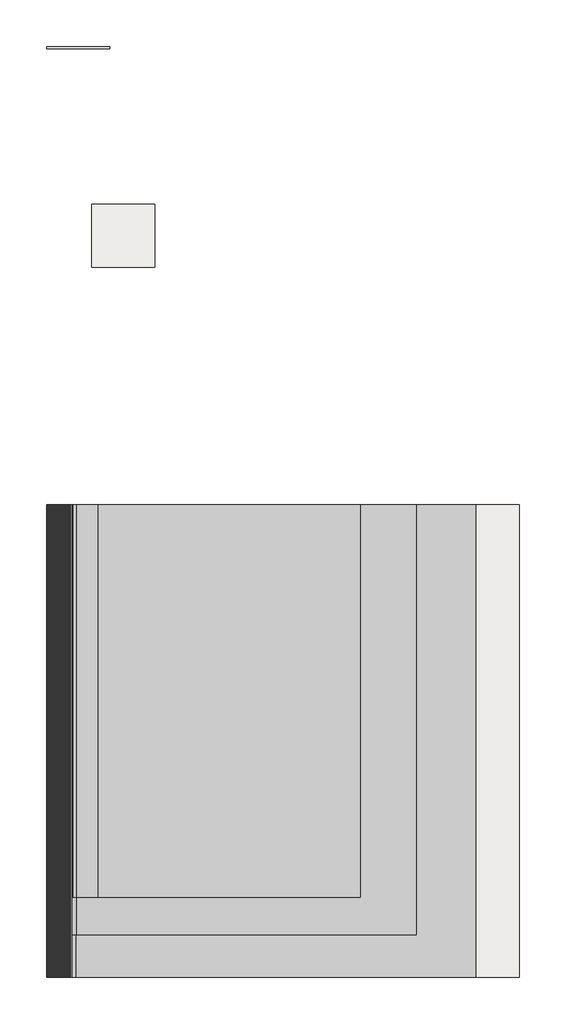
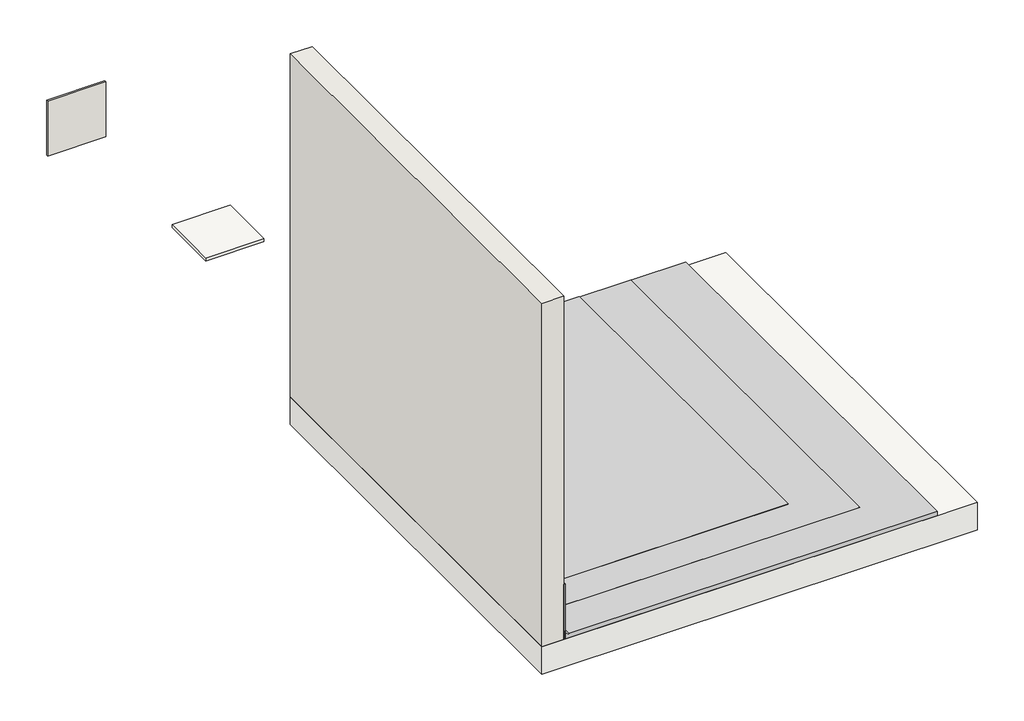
# One storey: 2 slabs, 2 walls, 1 proxy.
"""IFC4 building model written with IfcOpenShell, lengths in millimetres."""

import ifcopenshell
import ifcopenshell.guid

model = None  # the IFC model being written
_history = None  # IfcOwnerHistory: only IFC2X3 demands one
_inside = {}  # id of a spatial element -> (the spatial element, [elements in it])
_under = {}  # id of a project, library or spatial element -> (it, [spatial elements below it])
_declared = {}  # id of a project -> (the project, [libraries it declares])
_typed = {}  # id of a type object -> (the type object, [elements of that type])
_made_of = {}  # id of a material, layer set ... -> (it, [elements and type objects made of it])


def new_model(schema):
    """Start an empty IFC model of exactly this schema.

    Asked for "IFC4X3", IfcOpenShell would pick the latest addendum, in which some entities
    have other attributes; the version numbers below select the first issue.
    IFC2X3 requires an IfcOwnerHistory on every rooted entity: one is made here for all.
    """
    global model, _history
    if schema == "IFC4X3":
        model = ifcopenshell.file(schema_version=(4, 3, 0, 0))
    else:
        model = ifcopenshell.file(schema=schema)
    _inside.clear()
    _under.clear()
    _declared.clear()
    _typed.clear()
    _made_of.clear()
    _history = None
    if model.schema == "IFC2X3":
        org = make("IfcOrganization", Name="unknown")
        user = make(
            "IfcPersonAndOrganization",
            ThePerson=make("IfcPerson", FamilyName="unknown"),
            TheOrganization=org,
        )
        app = make(
            "IfcApplication",
            ApplicationDeveloper=org,
            Version="unknown",
            ApplicationFullName="unknown",
            ApplicationIdentifier="unknown",
        )
        _history = make(
            "IfcOwnerHistory",
            OwningUser=user,
            OwningApplication=app,
            ChangeAction="ADDED",
            CreationDate=0,
        )
    return model


def make(cls, **values):
    """One entity of the class cls with the attributes given. An attribute that is None is left unset."""
    return model.create_entity(
        cls, **{name: value for name, value in values.items() if value is not None}
    )


def rooted(cls, **values):
    """An entity with a GlobalId (a new one), such as an element, a storey or a relation."""
    return make(cls, GlobalId=ifcopenshell.guid.new(), OwnerHistory=_history, **values)


def si_unit(unit_type, name, prefix=None):
    """IfcSIUnit, for example si_unit("LENGTHUNIT", "METRE", prefix="MILLI")."""
    return make("IfcSIUnit", UnitType=unit_type, Prefix=prefix, Name=name)


def assignment(units):
    """IfcUnitAssignment: the units of a project."""
    return None if units is None else make("IfcUnitAssignment", Units=units)


def point(xyz):
    """IfcCartesianPoint."""
    return None if xyz is None else make("IfcCartesianPoint", Coordinates=xyz)


def direction(xyz):
    """IfcDirection."""
    return None if xyz is None else make("IfcDirection", DirectionRatios=xyz)


def frame(location, z_axis=None, x_axis=None):
    """IfcAxis2Placement3D, a coordinate frame: its origin and axes. An axis left out is left unset."""
    return make(
        "IfcAxis2Placement3D",
        Location=point(location),
        Axis=direction(z_axis),
        RefDirection=direction(x_axis),
    )


def frame_2d(location, x_axis=None):
    """IfcAxis2Placement2D, a coordinate frame in the plane: its origin and x axis."""
    return make(
        "IfcAxis2Placement2D", Location=point(location), RefDirection=direction(x_axis)
    )


def origin():
    """The frame at (0, 0, 0) with its axes left unset."""
    return frame((0.0, 0.0, 0.0))


def place(relative_to, where):
    """IfcLocalPlacement: puts the frame where relative to a parent placement (None: the world)."""
    return make(
        "IfcLocalPlacement", PlacementRelTo=relative_to, RelativePlacement=where
    )


def context(
    kind, dimensions, precision=None, world=None, true_north=None, identifier=None
):
    """IfcGeometricRepresentationContext, for example the 3D "Model" context."""
    return make(
        "IfcGeometricRepresentationContext",
        ContextIdentifier=identifier,
        ContextType=kind,
        CoordinateSpaceDimension=dimensions,
        Precision=precision,
        WorldCoordinateSystem=world,
        TrueNorth=true_north,
    )


def project(units=None, contexts=None):
    """IfcProject with its units and contexts."""
    return rooted(
        "IfcProject",
        Name="project",
        RepresentationContexts=contexts,
        UnitsInContext=assignment(units),
    )


def spatial(cls, under=None, at=None, **own):
    """A site, building, storey or space (cls), placed at a placement, below another one or the project."""
    s = rooted(cls, ObjectPlacement=at, **own)
    if under is not None:
        _under.setdefault(under.id(), (under, []))[1].append(s)
    return s


def polyline(points):
    """IfcPolyline through the points."""
    return make("IfcPolyline", Points=[point(p) for p in points])


def circle_curve(where, radius):
    """IfcCircle in the frame where."""
    return make("IfcCircle", Position=where, Radius=radius)


def trimmed(basis, trim1, trim2, sense, master):
    """IfcTrimmedCurve: the piece of a basis curve between two trims."""
    return make(
        "IfcTrimmedCurve",
        BasisCurve=basis,
        Trim1=trim1,
        Trim2=trim2,
        SenseAgreement=sense,
        MasterRepresentation=master,
    )


def segment(curve, same_sense, transition):
    """IfcCompositeCurveSegment."""
    return make(
        "IfcCompositeCurveSegment",
        Transition=transition,
        SameSense=same_sense,
        ParentCurve=curve,
    )


def composite_curve(segments, self_intersect=None):
    """IfcCompositeCurve: segments joined end to end."""
    return make("IfcCompositeCurve", Segments=segments, SelfIntersect=self_intersect)


def outline(outer, holes=None, kind="AREA"):
    """IfcArbitraryClosedProfileDef: a profile drawn as a closed curve; with holes, ...WithVoids."""
    if holes is None:
        return make("IfcArbitraryClosedProfileDef", ProfileType=kind, OuterCurve=outer)
    return make(
        "IfcArbitraryProfileDefWithVoids",
        ProfileType=kind,
        OuterCurve=outer,
        InnerCurves=holes,
    )


def extrude(swept, where, along, depth):
    """IfcExtrudedAreaSolid: the profile swept, set in the frame where, extruded along a direction by depth."""
    return make(
        "IfcExtrudedAreaSolid",
        SweptArea=swept,
        Position=where,
        ExtrudedDirection=direction(along),
        Depth=depth,
    )


def shape(context_of_items, identifier, shape_type, items):
    """IfcShapeRepresentation: the items that make up one representation, for example the "Body"."""
    return make(
        "IfcShapeRepresentation",
        ContextOfItems=context_of_items,
        RepresentationIdentifier=identifier,
        RepresentationType=shape_type,
        Items=items,
    )


def source(mapping_origin, context_of_items, identifier, shape_type, items):
    """IfcRepresentationMap: a shape defined once, which mapped items show again and again."""
    return make(
        "IfcRepresentationMap",
        MappingOrigin=mapping_origin,
        MappedRepresentation=shape(context_of_items, identifier, shape_type, items),
    )


def transform(
    local_origin,
    x_axis=None,
    y_axis=None,
    z_axis=None,
    scale=None,
    scale2=None,
    scale3=None,
    uniform=True,
):
    """IfcCartesianTransformationOperator3D, or its non-uniform kind. x_axis, y_axis, z_axis: its Axis1, 2, 3."""
    if uniform:
        return make(
            "IfcCartesianTransformationOperator3D",
            Axis1=direction(x_axis),
            Axis2=direction(y_axis),
            LocalOrigin=point(local_origin),
            Scale=scale,
            Axis3=direction(z_axis),
        )
    return make(
        "IfcCartesianTransformationOperator3DnonUniform",
        Axis1=direction(x_axis),
        Axis2=direction(y_axis),
        LocalOrigin=point(local_origin),
        Scale=scale,
        Axis3=direction(z_axis),
        Scale2=scale2,
        Scale3=scale3,
    )


def mapped(mapping_source, mapping_target):
    """IfcMappedItem: shows the shape of a source again, moved by a transform."""
    return make(
        "IfcMappedItem", MappingSource=mapping_source, MappingTarget=mapping_target
    )


def made_of(thing, what):
    """Note that an element or type object is made of a material, layer set ...; save() writes the relation."""
    if what is not None:
        _made_of.setdefault(what.id(), (what, []))[1].append(thing)
    return thing


def element(
    cls,
    number,
    at=None,
    inside=None,
    cuts=None,
    type_object=None,
    material=None,
    context=None,
    identifier="Body",
    shape_type=None,
    held_by="IfcProductDefinitionShape",
    body=None,
    shapes=None,
    **own,
):
    """One element of the class cls, such as IfcWall. Its Tag is "e" and its number.

    at: its placement. inside: the storey or other place that contains it. cuts: it is an
    opening in that element (IfcRelVoidsElement). A single representation is given by context,
    identifier, shape_type and body (its items); several are given by shapes. held_by: the class
    of the entity that holds the representations. save() writes the other relations.
    """
    e = rooted(cls, Tag="e%d" % number, ObjectPlacement=at, **own)
    if body is not None:
        shapes = [shape(context, identifier, shape_type, body)]
    if shapes is not None:
        e.Representation = make(held_by, Representations=shapes)
    if inside is not None:
        _inside.setdefault(inside.id(), (inside, []))[1].append(e)
    if cuts is not None:
        rooted(
            "IfcRelVoidsElement", RelatingBuildingElement=cuts, RelatedOpeningElement=e
        )
    if type_object is not None:
        _typed.setdefault(type_object.id(), (type_object, []))[1].append(e)
    return made_of(e, material)


def aggregate(whole, parts):
    """IfcRelAggregates: a whole, such as a stair, and the parts it consists of."""
    return rooted("IfcRelAggregates", RelatingObject=whole, RelatedObjects=parts)


def save(model, path):
    """Write the relations noted so far, then the file.

    IfcRelAggregates (storeys below a building ...), IfcRelContainedInSpatialStructure (elements
    in a storey), IfcRelDefinesByType, IfcRelAssociatesMaterial and IfcRelDeclares: one each for
    every whole, place, type object, material and project.
    """
    for whole, parts in _under.values():
        aggregate(whole, parts)
    for where, things in _inside.values():
        rooted(
            "IfcRelContainedInSpatialStructure",
            RelatedElements=things,
            RelatingStructure=where,
        )
    for kind, things in _typed.values():
        rooted("IfcRelDefinesByType", RelatedObjects=things, RelatingType=kind)
    for what, things in _made_of.values():
        rooted("IfcRelAssociatesMaterial", RelatedObjects=things, RelatingMaterial=what)
    for by, libraries in _declared.values():
        rooted("IfcRelDeclares", RelatingContext=by, RelatedDefinitions=libraries)
    model.write(path)


def generic_models_ff562c81(model_context):
    return source(origin(), model_context, "Body", "SweptSolid", [
        extrude(outline(polyline([(-351.9704105, 145.8700195), (-341.9704105, 145.8700195), (-341.9704105, -2854.1299805), (-351.9704105, -2854.1299805), (-351.9704105, 145.8700195)])), frame((0.0, 0.0, -2.523798), z_axis=(0.0, 0.0, 1.0), x_axis=(1.0, 0.0, 0.0)), (0.0, 0.0, 1.0), 400.0256685),
        extrude(outline(composite_curve([segment(polyline([(-311.9704105, 27.476202), (2221.8598581, 27.476202), (2221.8598581, -2.523798), (-341.9704105, -2.523798), (-341.9704105, 57.476202)]), True, "CONTINUOUS"), segment(trimmed(circle_curve(frame_2d((-311.9704105, 57.476202)), 30.0), [point((-341.9704105, 57.476202))], [point((-311.9704105, 27.476202))], True, "CARTESIAN"), True, "CONTINUOUS")], self_intersect=False)), frame((0.0, 145.8700195, 0.0), z_axis=(0.0, -1.0, 0.0), x_axis=(1.0, 0.0, 0.0)), (0.0, 0.0, 1.0), 3000.0),
        extrude(outline(composite_curve([segment(polyline([(56.6663512, -340.9591004), (397.5018705, -340.9591004), (397.5018705, -341.9704105), (57.476202, -341.9704105)]), True, "CONTINUOUS"), segment(trimmed(circle_curve(frame_2d((57.476202, -311.9704105)), 30.0), [point((57.476202, -341.9704105))], [point((27.476202, -311.9704105))], False, "CARTESIAN"), True, "CONTINUOUS"), segment(polyline([(27.476202, -311.9704105), (27.476202, 1843.8528814), (28.5018705, 1843.8528814), (28.5018705, -313.1902924)]), True, "CONTINUOUS"), segment(trimmed(circle_curve(frame_2d((57.476202, -311.9704105)), 29.0), [point((28.5018705, -313.1902924))], [point((56.6663512, -340.9591004))], True, "CARTESIAN"), True, "CONTINUOUS")], self_intersect=False)), frame((0.0, -2584.6706464, 0.0), z_axis=(0.0, 1.0, 0.0), x_axis=(0.0, 0.0, 1.0)), (0.0, 0.0, 1.0), 2730.5406659),
        extrude(outline(composite_curve([segment(polyline([(397.5018705, -338.9591004), (397.5018705, -340.9591004), (170.8079879, -340.9591004)]), True, "CONTINUOUS"), segment(trimmed(circle_curve(frame_2d((170.8079879, -331.9879323)), 8.9711681), [point((170.8079879, -340.9591004))], [point((169.4088257, -340.8493206))], False, "CARTESIAN"), True, "CONTINUOUS"), segment(trimmed(circle_curve(frame_2d((177.2575148, -313.1600928)), 28.7801191), [point((169.4088257, -340.8493206))], [point((164.5018705, -338.9591004))], False, "CARTESIAN"), True, "CONTINUOUS"), segment(polyline([(164.5018705, -338.9591004), (56.6947816, -338.9591004)]), True, "CONTINUOUS"), segment(trimmed(circle_curve(frame_2d((57.476202, -311.9704105)), 27.0), [point((56.6947816, -338.9591004))], [point((30.5018705, -313.1474568))], False, "CARTESIAN"), True, "CONTINUOUS"), segment(polyline([(30.5018705, -313.1474568), (30.5018705, -176.9591004), (32.5018705, -176.9591004), (32.5018705, -313.1030023)]), True, "CONTINUOUS"), segment(trimmed(circle_curve(frame_2d((57.476202, -311.9704105)), 25.0), [point((32.5018705, -313.1030023))], [point((56.7242861, -336.9591004))], True, "CARTESIAN"), True, "CONTINUOUS"), segment(polyline([(56.7242861, -336.9591004), (161.7242861, -336.9591004)]), True, "CONTINUOUS"), segment(trimmed(circle_curve(frame_2d((162.203873, -349.4059369)), 12.4560725), [point((161.7242861, -336.9591004))], [point((167.7205329, -338.2381168))], False, "CARTESIAN"), True, "CONTINUOUS"), segment(trimmed(circle_curve(frame_2d((170.8079879, -331.9879323)), 6.9711681), [point((167.7205329, -338.2381168))], [point((170.8079879, -338.9591004))], True, "CARTESIAN"), True, "CONTINUOUS"), segment(polyline([(170.8079879, -338.9591004), (397.5018705, -338.9591004)]), True, "CONTINUOUS")], self_intersect=False)), frame((0.0, -2345.5359843, 0.0), z_axis=(0.0, 1.0, 0.0), x_axis=(0.0, 0.0, 1.0)), (0.0, 0.0, 1.0), 2491.4060038),
        extrude(outline(composite_curve([segment(polyline([(28.5018705, -313.1902924), (28.5018705, 1488.0295895), (30.5018705, 1488.0295895), (30.5018705, -313.1474568)]), True, "CONTINUOUS"), segment(trimmed(circle_curve(frame_2d((57.476202, -311.9704105)), 27.0), [point((30.5018705, -313.1474568))], [point((56.6947816, -338.9591004))], True, "CARTESIAN"), True, "CONTINUOUS"), segment(polyline([(56.6947816, -338.9591004), (164.5018705, -338.9591004), (166.5018705, -340.9591004), (56.6663512, -340.9591004)]), True, "CONTINUOUS"), segment(trimmed(circle_curve(frame_2d((57.476202, -311.9704105)), 29.0), [point((56.6663512, -340.9591004))], [point((28.5018705, -313.1902924))], False, "CARTESIAN"), True, "CONTINUOUS")], self_intersect=False)), frame((0.0, -2345.5359843, 0.0), z_axis=(0.0, 1.0, 0.0), x_axis=(0.0, 0.0, 1.0)), (0.0, 0.0, 1.0), 2491.4060038),
    ])


model = new_model("IFC4")

# Units and contexts
model_context = context("Model", 3, world=origin())
ifc_project = project(units=[si_unit("LENGTHUNIT", "METRE", prefix="MILLI")], contexts=[model_context])

# Site, building, storey
site = spatial("IfcSite", under=ifc_project)
building = spatial("IfcBuilding", under=site)
storey = spatial("IfcBuildingStorey", under=building, Name="ARQ Térreo", Elevation=-2.523798)

# Proxy
placement = place(None, origin())
generic_models_shape = generic_models_ff562c81(model_context)
element("IfcBuildingElementProxy", 1, Name="IMPER:IMPER:433934 : IMPER:IMPER:433934", ObjectType="IMPER:IMPER:433934 : IMPER:IMPER:433934", at=placement, inside=storey, context=model_context, shape_type="MappedRepresentation", body=[
    mapped(generic_models_shape, transform((0.0, 0.0, 0.0), x_axis=(1.0, 0.0, 0.0), y_axis=(0.0, 1.0, 0.0), z_axis=(0.0, 0.0, 1.0))),
])

# Slabs
element("IfcSlab", 2, ObjectType="IMPH_Viamanta Multiuso Autocolante Alumínio", at=placement, inside=storey, context=model_context, shape_type="SweptSolid", body=[
    extrude(outline(polyline([(-216.1419101, 2051.0407158), (183.8580899, 2051.0407158), (183.8580899, 1651.0407158), (-216.1419101, 1651.0407158), (-216.1419101, 2051.0407158)])), frame((0.0, 0.0, -25.523798), z_axis=(0.0, 0.0, 1.0), x_axis=(1.0, 0.0, 0.0)), (0.0, 0.0, 1.0), 23.0),
])
element("IfcSlab", 3, ObjectType="Piso:LAJE CONCRETO", at=placement, inside=storey, context=model_context, shape_type="SweptSolid", body=[
    extrude(outline(polyline([(-501.9704105, 145.8700195), (2498.0295895, 145.8700195), (2498.0295895, -2854.1299805), (-501.9704105, -2854.1299805), (-501.9704105, 145.8700195)])), frame((0.0, 0.0, -202.523798), z_axis=(0.0, 0.0, 1.0), x_axis=(1.0, 0.0, 0.0)), (0.0, 0.0, 1.0), 200.0),
])

# Walls
element("IfcWall", 4, ObjectType="Parede básica:Parede Concreto", at=placement, inside=storey, context=model_context, shape_type="SweptSolid", body=[
    extrude(outline(polyline([(-501.9704105, -2854.1299805), (-501.9704105, 145.8700195), (-351.9704105, 145.8700195), (-351.9704105, -2854.1299805), (-501.9704105, -2854.1299805)])), frame((0.0, 0.0, -2.523798), z_axis=(0.0, 0.0, 1.0), x_axis=(1.0, 0.0, 0.0)), (0.0, 0.0, 1.0), 2500.0),
])
element("IfcWall", 5, ObjectType="IMPV_Viamanta Multiuso Autocolante Alumínio", at=placement, inside=storey, context=model_context, shape_type="SweptSolid", body=[
    extrude(outline(polyline([(-101.9704105, 3039.3700195), (-501.9704105, 3039.3700195), (-501.9704105, 3052.3700195), (-101.9704105, 3052.3700195), (-101.9704105, 3039.3700195)])), frame((0.0, 0.0, -2.523798), z_axis=(0.0, 0.0, 1.0), x_axis=(1.0, 0.0, 0.0)), (0.0, 0.0, 1.0), 400.0),
])

save(model, "model.ifc")
